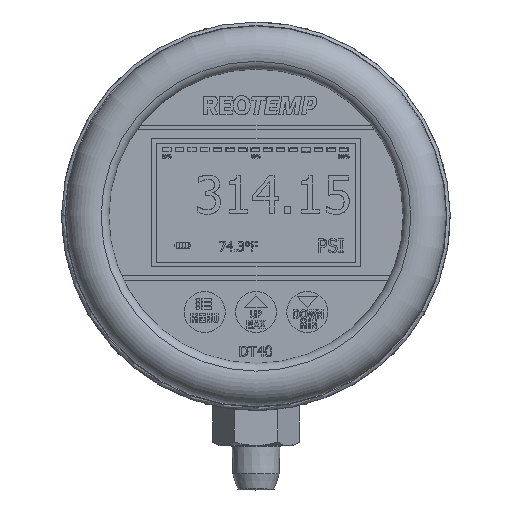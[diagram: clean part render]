
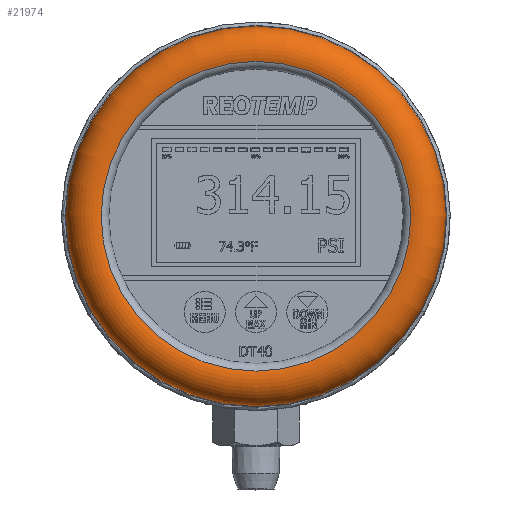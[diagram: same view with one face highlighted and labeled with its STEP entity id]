
A CAD part, top view. The second image highlights one B-rep face of the part: STEP entity #21974.
In plain terms, the highlighted toroidal (fillet/blend) face has major radius 47.878 mm and minor radius 7.698 mm.
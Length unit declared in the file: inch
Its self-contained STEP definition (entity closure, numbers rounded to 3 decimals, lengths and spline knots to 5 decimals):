
#121=TOROIDAL_SURFACE('',#23373,1.88496,0.30308);
#562=CIRCLE('',#23362,2.188);
#563=CIRCLE('',#23363,2.188);
#570=CIRCLE('',#23374,1.78372);
#571=CIRCLE('',#23375,0.30308);
#2839=FACE_OUTER_BOUND('',#4204,.T.);
#4204=EDGE_LOOP('',(#19686,#19687,#19688,#19689,#19690));
#10396=VERTEX_POINT('',#44102);
#10397=VERTEX_POINT('',#44103);
#10401=VERTEX_POINT('',#44120);
#13490=EDGE_CURVE('',#10396,#10397,#562,.T.);
#13491=EDGE_CURVE('',#10397,#10396,#563,.T.);
#13499=EDGE_CURVE('',#10401,#10401,#570,.T.);
#13500=EDGE_CURVE('',#10401,#10396,#571,.T.);
#19686=ORIENTED_EDGE('',*,*,#13499,.F.);
#19687=ORIENTED_EDGE('',*,*,#13500,.T.);
#19688=ORIENTED_EDGE('',*,*,#13490,.T.);
#19689=ORIENTED_EDGE('',*,*,#13491,.T.);
#19690=ORIENTED_EDGE('',*,*,#13500,.F.);
#21974=ADVANCED_FACE('',(#2839),#121,.T.);
#23362=AXIS2_PLACEMENT_3D('',#44104,#28022,#28023);
#23363=AXIS2_PLACEMENT_3D('',#44105,#28024,#28025);
#23373=AXIS2_PLACEMENT_3D('',#44119,#28045,#28046);
#23374=AXIS2_PLACEMENT_3D('',#44121,#28047,#28048);
#23375=AXIS2_PLACEMENT_3D('',#44122,#28049,#28050);
#28022=DIRECTION('center_axis',(0.,1.,0.));
#28023=DIRECTION('ref_axis',(1.,0.,0.));
#28024=DIRECTION('center_axis',(0.,1.,0.));
#28025=DIRECTION('ref_axis',(1.,0.,0.));
#28045=DIRECTION('center_axis',(0.,1.,0.));
#28046=DIRECTION('ref_axis',(0.,0.,1.));
#28047=DIRECTION('center_axis',(0.,1.,0.));
#28048=DIRECTION('ref_axis',(1.,0.,0.));
#28049=DIRECTION('center_axis',(-1.,0.,0.));
#28050=DIRECTION('ref_axis',(0.,0.,-1.));
#44102=CARTESIAN_POINT('',(2.188,0.91454,-2.188));
#44103=CARTESIAN_POINT('',(4.376,0.91454,0.));
#44104=CARTESIAN_POINT('Origin',(2.188,0.91454,0.));
#44105=CARTESIAN_POINT('Origin',(2.188,0.91454,0.));
#44119=CARTESIAN_POINT('Origin',(2.188,0.91962,0.));
#44120=CARTESIAN_POINT('',(2.188,1.2053,-1.78372));
#44121=CARTESIAN_POINT('Origin',(2.188,1.2053,0.));
#44122=CARTESIAN_POINT('Origin',(2.188,0.91962,-1.88496));
